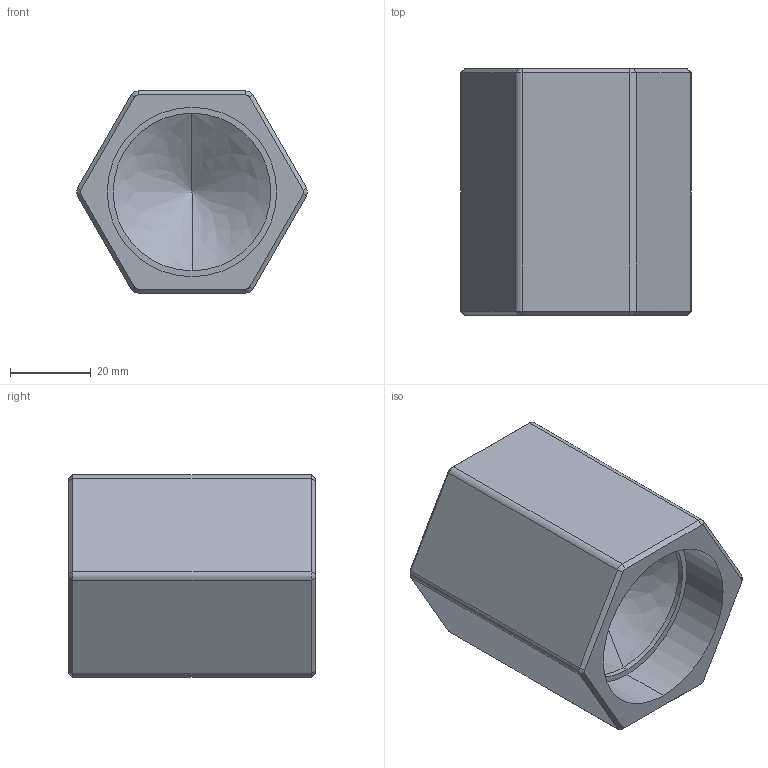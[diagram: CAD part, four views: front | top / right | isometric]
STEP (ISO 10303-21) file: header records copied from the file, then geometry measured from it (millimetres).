
FILE_DESCRIPTION( (''), '2;1');
FILE_NAME ('PC1276.13840.CF-60 32A_12183.stp','2025-12-10T12:52:55',(''),(''),'spGate 20.6.3 (****-****-****-****)','','');
FILE_SCHEMA (('AUTOMOTIVE_DESIGN'));
Length unit declared in the file: millimetre
Bounding box: 57.12 x 61 x 50 mm (x, y, z)
Volume: 84749 mm3; surface area: 18645.4 mm2
Topology: 1 solids, 1 shells, 52 faces, 116 edges, 66 vertices
Faces by surface type: plane 22, bspline 16, cylinder 14
Entity records: 2389 total; most frequent: CARTESIAN_POINT 338, ORIENTED_EDGE 224, DIRECTION 212, COLOUR_RGB 165, PRESENTATION_STYLE_ASSIGNMENT 165, STYLED_ITEM 165, EDGE_CURVE 112, DRAUGHTING_PRE_DEFINED_CURVE_FONT 112
